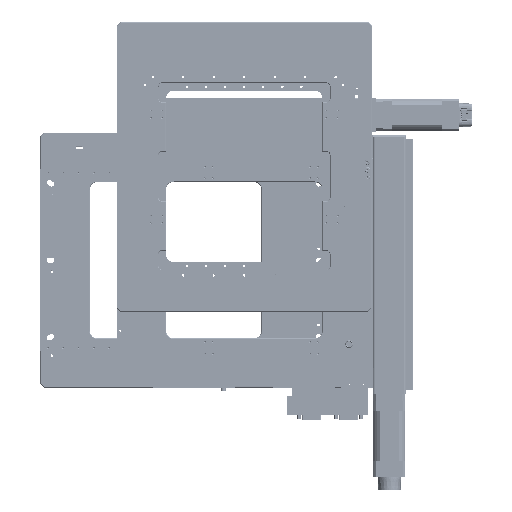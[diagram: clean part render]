
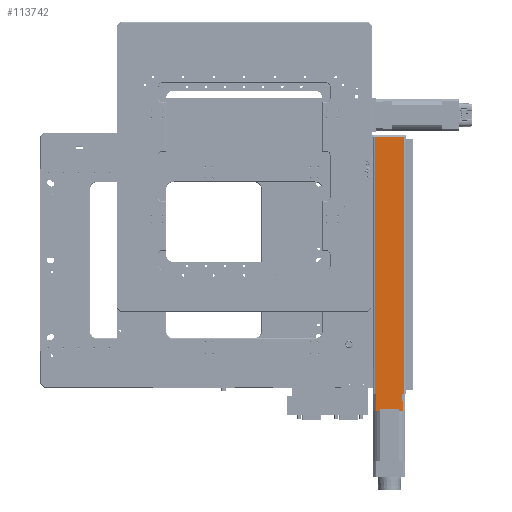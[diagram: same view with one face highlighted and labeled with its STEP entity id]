
A CAD part, top view. The second image highlights one B-rep face of the part: STEP entity #113742.
In plain terms, the highlighted planar face has unit normal (0, 0, 1).
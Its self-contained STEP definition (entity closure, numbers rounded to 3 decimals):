
#6775=PLANE($,#123161);
#13878=FACE_OUTER_BOUND($,#21995,.T.);
#21995=EDGE_LOOP($,(#93656,#93657,#93658,#93659,#93660,#93661,#93662,#93663,
#93664,#93665,#93666,#93667,#93668,#93669,#93670,#93671));
#28338=LINE($,#171246,#37351);
#28339=LINE($,#171250,#37352);
#28342=LINE($,#171265,#37355);
#30939=LINE($,#202209,#39952);
#30943=LINE($,#202221,#39956);
#30988=LINE($,#202458,#40001);
#30989=LINE($,#202459,#40002);
#30993=LINE($,#202465,#40006);
#30994=LINE($,#202468,#40007);
#30999=LINE($,#202483,#40012);
#31000=LINE($,#202485,#40013);
#31007=LINE($,#202498,#40020);
#31095=LINE($,#202856,#40108);
#31099=LINE($,#202863,#40112);
#31108=LINE($,#202880,#40121);
#31129=LINE($,#203043,#40142);
#37351=VECTOR($,#138515,2.);
#37352=VECTOR($,#138520,337.);
#37355=VECTOR($,#138533,337.);
#39952=VECTOR($,#146844,0.755);
#39956=VECTOR($,#146854,0.755);
#40001=VECTOR($,#147015,25.239);
#40002=VECTOR($,#147016,2.25);
#40006=VECTOR($,#147020,2.25);
#40007=VECTOR($,#147023,5.136);
#40012=VECTOR($,#147038,5.136);
#40013=VECTOR($,#147041,12.8);
#40020=VECTOR($,#147056,12.8);
#40108=VECTOR($,#147364,9.);
#40112=VECTOR($,#147370,9.);
#40121=VECTOR($,#147389,2.);
#40142=VECTOR($,#147540,38.);
#50291=VERTEX_POINT($,#171243);
#50292=VERTEX_POINT($,#171245);
#50293=VERTEX_POINT($,#171249);
#50299=VERTEX_POINT($,#171262);
#50300=VERTEX_POINT($,#171264);
#53552=VERTEX_POINT($,#202205);
#53554=VERTEX_POINT($,#202208);
#53557=VERTEX_POINT($,#202215);
#53559=VERTEX_POINT($,#202219);
#53613=VERTEX_POINT($,#202415);
#53627=VERTEX_POINT($,#202452);
#53628=VERTEX_POINT($,#202456);
#53629=VERTEX_POINT($,#202457);
#53632=VERTEX_POINT($,#202467);
#53637=VERTEX_POINT($,#202481);
#53737=VERTEX_POINT($,#202861);
#62186=EDGE_CURVE($,#50292,#50291,#28338,.T.);
#62188=EDGE_CURVE($,#50292,#50293,#28339,.T.);
#62195=EDGE_CURVE($,#50300,#50299,#28342,.T.);
#67016=EDGE_CURVE($,#53554,#53552,#30939,.T.);
#67022=EDGE_CURVE($,#53557,#53559,#30943,.T.);
#67109=EDGE_CURVE($,#53628,#53629,#30988,.T.);
#67110=EDGE_CURVE($,#53627,#53628,#30989,.T.);
#67114=EDGE_CURVE($,#53629,#53613,#30993,.T.);
#67115=EDGE_CURVE($,#53627,#53632,#30994,.T.);
#67123=EDGE_CURVE($,#53637,#53613,#30999,.T.);
#67124=EDGE_CURVE($,#53554,#53637,#31000,.T.);
#67132=EDGE_CURVE($,#53559,#53632,#31007,.T.);
#67275=EDGE_CURVE($,#53557,#50291,#31095,.T.);
#67279=EDGE_CURVE($,#53737,#53552,#31099,.T.);
#67288=EDGE_CURVE($,#53737,#50300,#31108,.T.);
#67348=EDGE_CURVE($,#50293,#50299,#31129,.T.);
#93656=ORIENTED_EDGE($,*,*,#67275,.F.);
#93657=ORIENTED_EDGE($,*,*,#67022,.T.);
#93658=ORIENTED_EDGE($,*,*,#67132,.T.);
#93659=ORIENTED_EDGE($,*,*,#67115,.F.);
#93660=ORIENTED_EDGE($,*,*,#67110,.T.);
#93661=ORIENTED_EDGE($,*,*,#67109,.T.);
#93662=ORIENTED_EDGE($,*,*,#67114,.T.);
#93663=ORIENTED_EDGE($,*,*,#67123,.F.);
#93664=ORIENTED_EDGE($,*,*,#67124,.F.);
#93665=ORIENTED_EDGE($,*,*,#67016,.T.);
#93666=ORIENTED_EDGE($,*,*,#67279,.F.);
#93667=ORIENTED_EDGE($,*,*,#67288,.T.);
#93668=ORIENTED_EDGE($,*,*,#62195,.T.);
#93669=ORIENTED_EDGE($,*,*,#67348,.F.);
#93670=ORIENTED_EDGE($,*,*,#62188,.F.);
#93671=ORIENTED_EDGE($,*,*,#62186,.T.);
#113742=ADVANCED_FACE($,(#13878),#6775,.T.);
#123161=AXIS2_PLACEMENT_3D($,#204055,#148540,#148541);
#138515=DIRECTION($,(1.,0.,0.));
#138520=DIRECTION($,(0.,1.,0.));
#138533=DIRECTION($,(0.,1.,0.));
#146844=DIRECTION($,(-1.,0.,0.));
#146854=DIRECTION($,(-1.,0.,0.));
#147015=DIRECTION($,(1.,0.,0.));
#147016=DIRECTION($,(0.,1.,0.));
#147020=DIRECTION($,(0.,-1.,0.));
#147023=DIRECTION($,(-1.,0.,0.));
#147038=DIRECTION($,(-1.,0.,0.));
#147041=DIRECTION($,(0.,-1.,0.));
#147056=DIRECTION($,(0.,-1.,0.));
#147364=DIRECTION($,(0.,1.,0.));
#147370=DIRECTION($,(0.,-1.,0.));
#147389=DIRECTION($,(1.,0.,0.));
#147540=DIRECTION($,(1.,0.,0.));
#148540=DIRECTION('center_axis',(0.,0.,
1.));
#148541=DIRECTION('ref_axis',(1.,0.,0.));
#171243=CARTESIAN_POINT('',(341.,-748.368,42.));
#171245=CARTESIAN_POINT('',(339.,-748.368,42.));
#171246=CARTESIAN_POINT($,(336.,-748.368,42.));
#171249=CARTESIAN_POINT('',(339.,-411.368,42.));
#171250=CARTESIAN_POINT($,(339.,-748.368,42.));
#171262=CARTESIAN_POINT('',(377.,-411.368,42.));
#171264=CARTESIAN_POINT('',(377.,-748.368,42.));
#171265=CARTESIAN_POINT($,(377.,-578.368,42.));
#202205=CARTESIAN_POINT('',(375.,-757.368,42.));
#202208=CARTESIAN_POINT('',(375.755,-757.368,42.));
#202209=CARTESIAN_POINT($,(375.755,-757.368,42.));
#202215=CARTESIAN_POINT('',(341.,-757.368,42.));
#202219=CARTESIAN_POINT('',(340.245,-757.368,42.));
#202221=CARTESIAN_POINT($,(375.755,-757.368,42.));
#202415=CARTESIAN_POINT('',(370.619,-770.168,42.));
#202452=CARTESIAN_POINT('',(345.381,-770.168,42.));
#202456=CARTESIAN_POINT('',(345.381,-767.918,42.));
#202457=CARTESIAN_POINT('',(370.619,-767.918,42.));
#202458=CARTESIAN_POINT($,(358.,-767.918,42.));
#202459=CARTESIAN_POINT($,(345.381,-770.168,42.));
#202465=CARTESIAN_POINT($,(370.619,-770.168,42.));
#202467=CARTESIAN_POINT('',(340.245,-770.168,42.));
#202468=CARTESIAN_POINT($,(375.755,-770.168,42.));
#202481=CARTESIAN_POINT('',(375.755,-770.168,42.));
#202483=CARTESIAN_POINT($,(375.755,-770.168,42.));
#202485=CARTESIAN_POINT($,(375.755,-757.368,42.));
#202498=CARTESIAN_POINT($,(340.245,-757.368,42.));
#202856=CARTESIAN_POINT($,(341.,-748.368,42.));
#202861=CARTESIAN_POINT('',(375.,-748.368,42.));
#202863=CARTESIAN_POINT($,(375.,-748.368,42.));
#202880=CARTESIAN_POINT($,(336.,-748.368,42.));
#203043=CARTESIAN_POINT($,(369.,-411.368,42.));
#204055=CARTESIAN_POINT('Origin',(336.,-748.368,42.));
